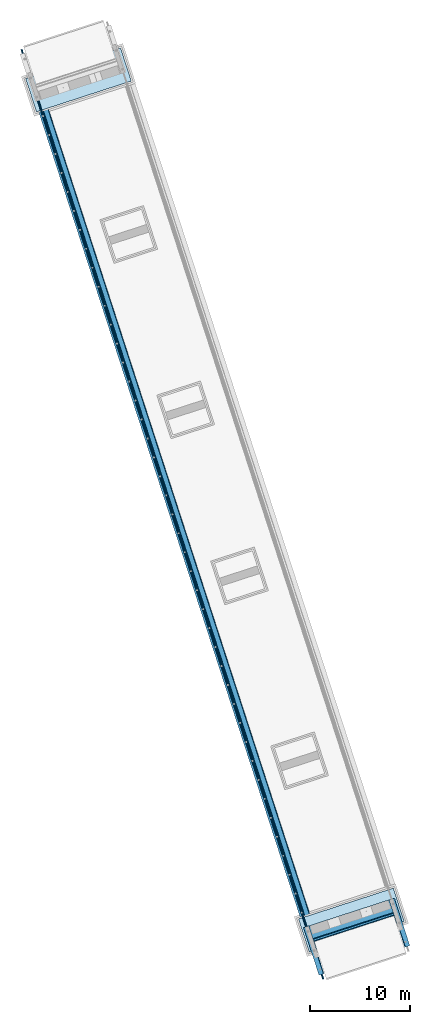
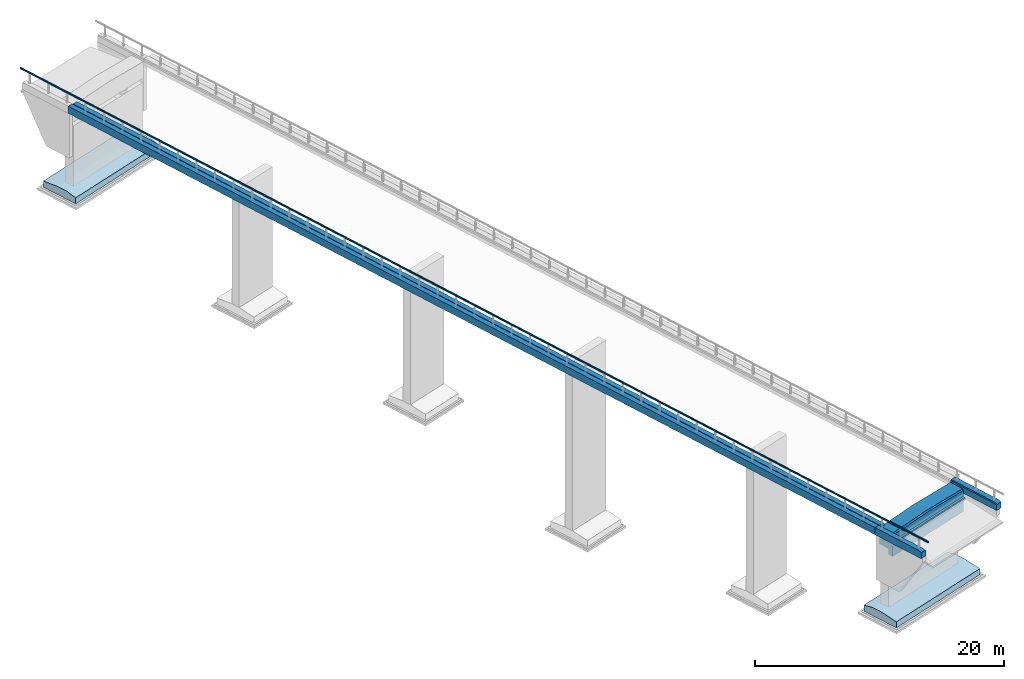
# Not in any storey, part 6 of 10: 5 beams, 2 footings, 1 member, 1 element without a shape of its own.
"""IFC4X3_ADD2 model written with IfcOpenShell, lengths in metres."""

from ifc_helpers import new_model, entity, si_unit, converted_unit, derived_unit, direction, frame, origin, origin_2d, place, context, subcontext, project, library, spatial, polygons, element, aggregate, save


model = new_model("IFC4X3_ADD2")

# Units and contexts
model_context = context("Model", 3, precision=1e-05, world=origin(), true_north=direction((-0.011993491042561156, 0.9999280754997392)))
plan_context = context("Plan", 2, precision=1e-05, world=origin_2d())
body_context = subcontext(model_context, "Body", "Model", "MODEL_VIEW")
ifc_project = project(units=[si_unit("LENGTHUNIT", "METRE"), si_unit("AREAUNIT", "SQUARE_METRE"), si_unit("VOLUMEUNIT", "CUBIC_METRE"), si_unit("MASSUNIT", "GRAM", prefix="KILO"), converted_unit("TIMEUNIT", "year", entity("IfcTimeMeasure", 31557600.0), si_unit("TIMEUNIT", "SECOND"), dimensions=[0, 0, 1, 0, 0, 0, 0]), si_unit("PLANEANGLEUNIT", "RADIAN"), si_unit("THERMODYNAMICTEMPERATUREUNIT", "DEGREE_CELSIUS"), si_unit("FORCEUNIT", "NEWTON", prefix="KILO"), si_unit("PRESSUREUNIT", "PASCAL", prefix="MEGA"), si_unit("SOLIDANGLEUNIT", "STERADIAN"), derived_unit("MASSDENSITYUNIT", [(si_unit("MASSUNIT", "GRAM", prefix="KILO"), 1), (si_unit("VOLUMEUNIT", "CUBIC_METRE"), -1)]), derived_unit("MODULUSOFELASTICITYUNIT", [(si_unit("PRESSUREUNIT", "PASCAL", prefix="MEGA"), 1)]), derived_unit("THERMALEXPANSIONCOEFFICIENTUNIT", [(si_unit("THERMODYNAMICTEMPERATUREUNIT", "DEGREE_CELSIUS"), -1)])], contexts=[model_context, plan_context])
project_library = library(declared=ifc_project)

# Site, bridge, bridge parts
site_placement = place(None, origin())
site = spatial("IfcSite", under=ifc_project, at=site_placement, Name="Site BR-01", CompositionType="ELEMENT")
bridge_placement = place(site_placement, origin())
bridge = spatial("IfcBridge", under=site, at=bridge_placement, Name="BR-01", CompositionType="ELEMENT", PredefinedType="USERDEFINED")
bridge_part_1_placement = place(bridge_placement, origin())
bridge_part_1 = spatial("IfcBridgePart", under=bridge, at=bridge_part_1_placement, Name="Substructure", CompositionType="ELEMENT", PredefinedType="SUBSTRUCTURE", UsageType="VERTICAL")
bridge_part_2_placement = place(bridge_part_1_placement, frame((0.0, 0.0, 55.75)))
bridge_part_2 = spatial("IfcBridgePart", under=bridge_part_1, at=bridge_part_2_placement, Name="A1", CompositionType="ELEMENT", PredefinedType="ABUTMENT", UsageType="VERTICAL")

# Footing
footing_1_placement = place(bridge_part_2_placement, frame((14.585738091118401, 113.83408002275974, 0.25), z_axis=(0.0, 0.0, 1.0), x_axis=(0.3088039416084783, -0.951125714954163, 0.0)))
element("IfcFooting", 1, at=footing_1_placement, inside=bridge_part_2, Name="Abutment strip footing A1", PredefinedType="STRIP_FOOTING", context=body_context, shape_type="Tessellation", body=[
    polygons([(-1.75001, -5.0, 0.0), (-1.75001, -5.0, 0.6), (-1.74999, 5.0, 0.6), (-1.74999, 5.0, 0.0), (-0.15001, -5.0, 0.8), (-0.14999, 5.0, 0.8), (0.74999, -5.0, 0.8), (0.75001, 5.0, 0.8), (1.74999, -5.0, 0.6), (1.75001, 5.0, 0.6), (1.74999, -5.0, 0.0), (1.75001, 5.0, 0.0)], [[[1, 2, 3, 4]], [[2, 5, 6, 3]], [[5, 7, 8, 6]], [[7, 9, 10, 8]], [[9, 11, 12, 10]], [[4, 6, 12]], [[6, 4, 3]], [[6, 10, 12]], [[10, 6, 8]], [[5, 1, 11]], [[5, 2, 1]], [[5, 9, 7]], [[11, 9, 5]], [[11, 1, 4, 12]]], closed=True),
])

# Bridge part
bridge_part_3_placement = place(bridge_part_1_placement, frame((0.0, 0.0, 55.75)))
bridge_part_3 = spatial("IfcBridgePart", under=bridge_part_1, at=bridge_part_3_placement, Name="A2", CompositionType="ELEMENT", PredefinedType="ABUTMENT", UsageType="VERTICAL")

# Footing
footing_2_placement = place(bridge_part_3_placement, frame((41.94554019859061, 29.564268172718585, 0.25), z_axis=(0.0, 0.0, 1.0), x_axis=(0.3088039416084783, -0.951125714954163, 0.0)))
element("IfcFooting", 2, at=footing_2_placement, inside=bridge_part_3, Name="Abutment strip footing A2", PredefinedType="STRIP_FOOTING", context=body_context, shape_type="Tessellation", body=[
    polygons([(1.75001, 5.0, 0.6), (1.74999, -5.0, 0.6), (1.74999, -5.0, 0.0), (1.75001, 5.0, 0.0), (0.15001, 5.0, 0.8), (0.14999, -5.0, 0.8), (-0.74999, 5.0, 0.8), (-0.75001, -5.0, 0.8), (-1.74999, 5.0, 0.6), (-1.75001, -5.0, 0.6), (-1.74999, 5.0, 0.0), (-1.75001, -5.0, 0.0)], [[[1, 2, 3, 4]], [[5, 6, 2, 1]], [[7, 8, 6, 5]], [[9, 10, 8, 7]], [[11, 12, 10, 9]], [[9, 7, 11]], [[7, 5, 4, 11]], [[5, 1, 4]], [[6, 10, 12]], [[10, 6, 8]], [[3, 6, 12]], [[6, 3, 2]], [[4, 3, 12, 11]]], closed=True),
])

# Bridge parts
bridge_part_4_placement = place(bridge_placement, origin())
bridge_part_4 = spatial("IfcBridgePart", under=bridge, at=bridge_part_4_placement, Name="Superstructure", CompositionType="ELEMENT", PredefinedType="SUPERSTRUCTURE", UsageType="LONGITUDINAL")
bridge_part_5_placement = place(bridge_part_4_placement, frame((0.0, 0.0, 62.729)))
bridge_part_5 = spatial("IfcBridgePart", under=bridge_part_4, at=bridge_part_5_placement, Name="Deck", CompositionType="ELEMENT", PredefinedType="DECK", UsageType="LONGITUDINAL")

# Railing, member
railing_placement = place(bridge_part_5_placement, frame((9.178916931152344, 115.91495513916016, 3.319721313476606), z_axis=(0.0, 0.0, 1.0), x_axis=(0.3088039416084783, -0.951125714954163, 0.0)))
railing = element("IfcRailing", 3, at=railing_placement, inside=bridge_part_5, Name="Bridge railing right", PredefinedType="GUARDRAIL")
member_placement = place(bridge_part_5_placement, frame((24.001186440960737, 70.26147365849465, 2.754779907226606), z_axis=(0.0, 0.0, 1.0), x_axis=(0.3088039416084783, -0.951125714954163, 0.0)))
member = element("IfcMember", 4, at=member_placement, Name="Railing top rail right", ObjectType="TOPRAIL", PredefinedType="USERDEFINED", context=body_context, shape_type="Tessellation", body=[
    polygons([(-48.9997, 0.0259, 0.50496), (-48.99969, -0.02563, 0.50496), (-48.99903, 0.0259, 0.63512), (-48.99949, 0.06522, 0.54427), (-48.99961, 0.04963, 0.52055), (-48.99972, 0.00014, 0.50004), (-48.99923, 0.06522, 0.59581), (-48.99936, 0.07014, 0.57004), (-48.99911, 0.04963, 0.61954), (-48.99903, -0.02563, 0.63512), (-48.99901, 0.00014, 0.64004), (-48.99911, -0.04936, 0.61954), (-48.99949, -0.06495, 0.54427), (-48.99961, -0.04936, 0.52055), (-48.99936, -0.06986, 0.57004), (-48.99923, -0.06495, 0.59581), (48.99972, -0.00014, 0.14), (48.99903, 0.02563, 0.00492), (48.99969, 0.02563, 0.13509), (48.99911, 0.04936, 0.02051), (48.99923, 0.06495, 0.04424), (48.99949, 0.06495, 0.09577), (48.99962, 0.04936, 0.1195), (48.99901, -0.00014, 0.0), (48.99936, 0.06986, 0.07), (48.99903, -0.0259, 0.00492), (48.99961, -0.04963, 0.1195), (48.99911, -0.04963, 0.02051), (48.99923, -0.06522, 0.04424), (48.99949, -0.06522, 0.09577), (48.99936, -0.07014, 0.07), (48.99969, -0.0259, 0.13509)], [[[1, 2, 3]], [[3, 4, 1]], [[4, 5, 1]], [[2, 1, 6]], [[4, 7, 8]], [[3, 7, 4]], [[3, 9, 7]], [[10, 11, 3]], [[12, 2, 13]], [[2, 14, 13]], [[15, 16, 13]], [[3, 2, 10]], [[2, 12, 10]], [[13, 16, 12]], [[17, 18, 19]], [[20, 21, 22]], [[18, 20, 23]], [[18, 17, 24]], [[21, 25, 22]], [[22, 23, 20]], [[19, 18, 23]], [[24, 17, 26]], [[26, 27, 28]], [[27, 29, 28]], [[30, 31, 29]], [[32, 26, 17]], [[27, 26, 32]], [[30, 29, 27]], [[30, 16, 15, 31]], [[26, 2, 6, 24]], [[18, 1, 5, 20]], [[21, 4, 8, 25]], [[20, 5, 4, 21]], [[24, 6, 1, 18]], [[29, 13, 14, 28]], [[28, 14, 2, 26]], [[31, 15, 13, 29]], [[19, 3, 11, 17]], [[32, 10, 12, 27]], [[27, 12, 16, 30]], [[17, 11, 10, 32]], [[22, 7, 9, 23]], [[23, 9, 3, 19]], [[25, 8, 7, 22]]], closed=True),
])
aggregate(railing, [member])

# Beams
beam_1_placement = place(bridge_part_5_placement, frame((41.96870000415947, 29.492933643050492, -0.6481207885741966), z_axis=(0.0, 0.0, 1.0), x_axis=(0.3088039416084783, -0.951125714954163, 0.0)))
element("IfcBeam", 5, at=beam_1_placement, inside=bridge_part_5, Name="End diaphragm A2", PredefinedType="DIAPHRAGM", context=body_context, shape_type="Tessellation", body=[
    polygons([(-0.825, 0.0, 2.32847), (-0.165, -1.0625, 2.29322), (0.495, 0.0, 2.32173), (-0.495, -1.0625, 2.29491), (-0.49501, -2.125, 2.26303), (-0.82501, -4.25, 2.20097), (-0.49501, -3.1875, 2.23116), (-0.16501, -3.1875, 2.22948), (0.165, -1.0625, 2.29154), (0.16499, -2.125, 2.25967), (0.49499, -4.25, 2.19423), (0.16499, -3.1875, 2.22779), (-0.16501, -2.125, 2.26134), (0.57499, -4.25, 2.04382), (0.575, 0.0, 2.17133), (0.57499, -4.25, 1.49382), (0.575, -2e-05, 1.4938), (-0.825, -1e-05, 0.60048), (-0.82501, -4.25, 0.60097), (-0.82499, 4.25, 2.2), (-0.16499, 3.1875, 2.22908), (0.49501, 4.25, 2.19415), (-0.49499, 3.1875, 2.2306), (-0.49499, 2.125, 2.26266), (-0.495, 1.0625, 2.29472), (-0.165, 1.0625, 2.29309), (0.16501, 3.1875, 2.22756), (0.16501, 2.125, 2.25951), (0.165, 1.0625, 2.29147), (-0.16499, 2.125, 2.26109), (0.53501, 3.1875, 2.15086), (0.57501, 4.25, 2.04379), (0.51501, 3.1875, 2.18845), (0.51501, 2.125, 2.22034), (0.515, 1.0625, 2.25224), (0.535, 1.0625, 2.21464), (0.55501, 3.1875, 2.11327), (0.55501, 2.125, 2.14515), (0.555, 1.0625, 2.17704), (0.53501, 2.125, 2.18275), (0.57501, 4.25, 1.49379), (0.66501, 2.125, 1.4848), (0.75501, 4.25, 1.47579), (0.62, -2e-05, 1.48931), (0.62001, 2.125, 1.4893), (0.61999, -2.125, 1.48932), (0.66499, -2.125, 1.48481), (0.71001, 2.125, 1.4803), (0.71, -2e-05, 1.4803), (0.75499, -4.25, 1.47582), (0.70999, -2.125, 1.48032), (0.665, -2e-05, 1.48481), (0.79001, 2.125, 1.4508), (0.82501, 4.25, 1.42579), (0.77251, 2.125, 1.4633), (0.7725, -2e-05, 1.46331), (0.77249, -2.125, 1.46331), (0.80751, 2.125, 1.4383), (0.8075, -2e-05, 1.4383), (0.82499, -4.25, 1.42582), (0.80749, -2.125, 1.43832), (0.78999, -2.125, 1.45081), (0.79, -2e-05, 1.45081), (0.82501, 2.125, 1.3348), (0.82501, 4.25, 1.24379), (0.82501, 2.125, 1.3803), (0.825, -2e-05, 1.38031), (0.82499, -2.125, 1.38031), (0.82499, -2.125, 1.33482), (0.82501, 2.125, 1.2893), (0.825, -2e-05, 1.28931), (0.82499, -4.25, 1.24382), (0.82499, -2.125, 1.28931), (0.825, -2e-05, 1.33481), (0.70001, 2.125, 1.1188), (0.57501, 4.25, 0.99379), (0.76251, 2.125, 1.1813), (0.7625, -2e-05, 1.1813), (0.76249, -2.125, 1.18132), (0.63751, 2.125, 1.0563), (0.6375, -2e-05, 1.0563), (0.57499, -4.25, 0.99382), (0.63749, -2.125, 1.05632), (0.69999, -2.125, 1.11882), (0.7, -2e-05, 1.1188), (0.57501, 2.125, 0.49702), (0.57501, 4.25, 0.0), (0.57501, 2.125, 0.74541), (0.575, -2e-05, 0.74548), (0.57499, -2.125, 0.74554), (0.57499, -2.125, 0.49727), (0.57501, 2.125, 0.24863), (0.575, -2e-05, 0.24881), (0.57499, -4.25, 0.00097), (0.57499, -2.125, 0.249), (0.575, -2e-05, 0.49715), (0.37501, 2.125, 0.00024), (0.17501, 4.25, 0.0), (0.47501, 2.125, 0.00024), (0.475, -2e-05, 0.00048), (0.47499, -2.125, 0.00072), (0.37499, -2.125, 0.00072), (0.27501, 2.125, 0.00024), (0.275, -2e-05, 0.00048), (0.17499, -4.25, 0.00097), (0.27499, -2.125, 0.00072), (0.375, -2e-05, 0.00048), (0.17501, 2.125, 0.30024), (0.17501, 4.25, 0.6), (0.17501, 2.125, 0.15024), (0.175, -1e-05, 0.15048), (0.17499, -2.125, 0.15073), (0.17501, 2.125, 0.45024), (0.175, -1e-05, 0.45049), (0.17499, -4.25, 0.60097), (0.17499, -2.125, 0.45073), (0.17499, -2.125, 0.30072), (0.175, -1e-05, 0.30048), (-0.32499, 2.125, 0.60024), (-0.82499, 4.25, 0.6), (-0.075, -1e-05, 0.60048), (-0.07499, 2.125, 0.60024), (-0.07501, -2.125, 0.60072), (-0.32501, -2.125, 0.60072), (-0.57499, 2.125, 0.60024), (-0.575, -1e-05, 0.60048), (-0.57501, -2.125, 0.60072), (-0.325, -1e-05, 0.60048)], [[[1, 2, 3]], [[4, 1, 5]], [[4, 2, 1]], [[6, 5, 1]], [[7, 6, 8]], [[6, 7, 5]], [[9, 3, 2]], [[3, 10, 11]], [[10, 3, 9]], [[12, 11, 10]], [[11, 8, 6]], [[8, 11, 12]], [[5, 13, 2, 4]], [[7, 8, 13, 5]], [[13, 10, 9, 2]], [[8, 12, 10, 13]], [[3, 11, 14, 15]], [[15, 14, 16, 17]], [[18, 19, 6, 1]], [[20, 21, 22]], [[23, 20, 24]], [[23, 21, 20]], [[1, 24, 20]], [[25, 1, 26]], [[1, 25, 24]], [[27, 22, 21]], [[22, 28, 3]], [[28, 22, 27]], [[29, 3, 28]], [[3, 26, 1]], [[26, 3, 29]], [[24, 30, 21, 23]], [[25, 26, 30, 24]], [[30, 28, 27, 21]], [[26, 29, 28, 30]], [[22, 31, 32]], [[33, 22, 34]], [[33, 31, 22]], [[3, 34, 22]], [[35, 3, 36]], [[3, 35, 34]], [[37, 32, 31]], [[32, 38, 15]], [[38, 32, 37]], [[39, 15, 38]], [[15, 36, 3]], [[36, 15, 39]], [[34, 40, 31, 33]], [[35, 36, 40, 34]], [[40, 38, 37, 31]], [[36, 39, 38, 40]], [[32, 15, 17, 41]], [[41, 42, 43]], [[44, 45, 41, 17]], [[45, 42, 41]], [[46, 17, 16]], [[46, 16, 47]], [[46, 44, 17]], [[48, 43, 42]], [[43, 49, 50]], [[49, 43, 48]], [[51, 50, 49]], [[50, 47, 16]], [[47, 50, 51]], [[44, 52, 42, 45]], [[46, 47, 52, 44]], [[52, 49, 48, 42]], [[47, 51, 49, 52]], [[43, 53, 54]], [[55, 53, 43]], [[56, 55, 43, 50]], [[50, 57, 56]], [[58, 54, 53]], [[54, 59, 60]], [[59, 54, 58]], [[61, 60, 59]], [[62, 57, 50, 60]], [[62, 60, 61]], [[56, 63, 53, 55]], [[57, 62, 63, 56]], [[63, 59, 58, 53]], [[62, 61, 59, 63]], [[54, 64, 65]], [[66, 64, 54]], [[67, 66, 54, 60]], [[68, 60, 69]], [[60, 68, 67]], [[70, 65, 64]], [[65, 71, 72]], [[71, 65, 70]], [[73, 72, 71]], [[72, 69, 60]], [[69, 72, 73]], [[67, 74, 64, 66]], [[68, 69, 74, 67]], [[74, 71, 70, 64]], [[69, 73, 71, 74]], [[65, 75, 76]], [[77, 75, 65]], [[78, 77, 65, 72]], [[72, 79, 78]], [[80, 76, 75]], [[76, 81, 82]], [[81, 76, 80]], [[83, 82, 81]], [[84, 79, 72, 82]], [[84, 82, 83]], [[78, 85, 75, 77]], [[79, 84, 85, 78]], [[85, 81, 80, 75]], [[84, 83, 81, 85]], [[76, 86, 87]], [[88, 86, 76]], [[89, 88, 76, 82]], [[90, 82, 91]], [[82, 90, 89]], [[92, 87, 86]], [[87, 93, 94]], [[93, 87, 92]], [[95, 94, 93]], [[94, 91, 82]], [[91, 94, 95]], [[89, 96, 86, 88]], [[90, 91, 96, 89]], [[96, 93, 92, 86]], [[91, 95, 93, 96]], [[87, 97, 98]], [[99, 97, 87]], [[100, 99, 87, 94]], [[101, 94, 102]], [[94, 101, 100]], [[103, 98, 97]], [[98, 104, 105]], [[104, 98, 103]], [[106, 105, 104]], [[105, 102, 94]], [[102, 105, 106]], [[100, 107, 97, 99]], [[101, 102, 107, 100]], [[107, 104, 103, 97]], [[102, 106, 104, 107]], [[98, 108, 109]], [[110, 108, 98]], [[111, 110, 98, 105]], [[105, 112, 111]], [[113, 109, 108]], [[109, 114, 115]], [[114, 109, 113]], [[116, 115, 114]], [[117, 112, 105, 115]], [[117, 115, 116]], [[111, 118, 108, 110]], [[112, 117, 118, 111]], [[118, 114, 113, 108]], [[117, 116, 114, 118]], [[109, 119, 120]], [[115, 121, 109]], [[122, 109, 121]], [[109, 122, 119]], [[115, 123, 121]], [[124, 115, 19]], [[115, 124, 123]], [[125, 120, 119]], [[125, 126, 18, 120]], [[127, 18, 126]], [[19, 127, 124]], [[19, 18, 127]], [[121, 128, 119, 122]], [[123, 124, 128, 121]], [[128, 126, 125, 119]], [[124, 127, 126, 128]], [[109, 76, 87]], [[20, 109, 120]], [[20, 22, 41]], [[20, 41, 109]], [[87, 98, 109]], [[76, 109, 41]], [[32, 41, 22]], [[41, 43, 65]], [[41, 65, 76]], [[54, 65, 43]], [[16, 11, 6]], [[115, 105, 94]], [[115, 94, 82]], [[115, 6, 19]], [[6, 115, 16]], [[16, 115, 82]], [[72, 16, 82]], [[50, 72, 60]], [[50, 16, 72]], [[16, 14, 11]], [[120, 18, 1, 20]]], closed=True),
])
beam_2_placement = place(bridge_part_5_placement, frame((24.46105203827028, 70.38857778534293, 1.1228447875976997), z_axis=(0.0, 0.0, 1.0), x_axis=(0.3088039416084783, -0.951125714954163, 0.0)))
element("IfcBeam", 6, at=beam_2_placement, inside=bridge_part_5, Name="Edge beam right inner", PredefinedType="EDGEBEAM", context=body_context, shape_type="Tessellation", body=[
    polygons([(0.0, 0.22, 0.55071), (-43.55, 0.22012, 0.87292), (43.55, 0.21988, 0.4285), (-21.44402, 0.22006, 0.66013), (-21.44402, 0.22006, 0.56013), (-43.55, 0.22012, 0.47293), (-21.44402, 0.22006, 0.46014), (22.10598, 0.21994, 0.43792), (22.10598, 0.21994, 0.33792), (43.55, 0.21988, 0.0285), (22.10598, 0.21994, 0.23792), (0.0, 0.22, 0.35072), (0.0, 0.22, 0.45071), (0.0, 0.0975, 0.24359), (-21.44402, 0.09756, 0.353), (-21.44402, -0.02494, 0.34589), (-43.55, -0.26988, 0.44443), (-21.44402, -0.14744, 0.33876), (22.10598, 0.09744, 0.13079), (22.10598, -0.02506, 0.12367), (43.55, -0.27012, 0.0), (22.10598, -0.14756, 0.11654), (0.0, -0.1475, 0.22934), (0.0, -0.025, 0.23647), (0.0, -0.27, 0.39722), (-21.44402, -0.26994, 0.50663), (-21.44402, -0.26994, 0.68163), (-43.55, -0.26988, 1.14443), (-21.44402, -0.26994, 0.85664), (22.10598, -0.27006, 0.28442), (22.10598, -0.27006, 0.45942), (43.55, -0.27012, 0.7), (22.10598, -0.27006, 0.63442), (0.0, -0.27, 0.74722), (0.0, -0.27, 0.57221), (0.0, -0.1525, 0.91721), (-21.44402, -0.15244, 1.02663), (-21.44402, -0.03494, 1.02163), (-43.55, 0.20012, 1.12443), (-21.44402, 0.08256, 1.01663), (22.10598, -0.15256, 0.80442), (22.10598, -0.03506, 0.79942), (43.55, 0.19988, 0.68), (22.10598, 0.08244, 0.79442), (0.0, 0.0825, 0.90721), (0.0, -0.035, 0.91222), (0.0, 0.2175, 0.88471), (-21.44402, 0.21756, 0.99413), (-21.44402, 0.23506, 0.97663), (-43.55, 0.27012, 1.05443), (-21.44402, 0.25256, 0.95913), (22.10598, 0.21744, 0.77192), (22.10598, 0.23494, 0.75442), (43.55, 0.26988, 0.61), (22.10598, 0.25244, 0.73692), (0.0, 0.2525, 0.84972), (0.0, 0.235, 0.86722), (0.0, 0.27, 0.78722), (-21.44402, 0.27006, 0.89663), (-21.44402, 0.27006, 0.85163), (-43.55, 0.27012, 0.87443), (-21.44402, 0.27006, 0.80663), (22.10598, 0.26994, 0.67442), (22.10598, 0.26994, 0.62942), (43.55, 0.26988, 0.43), (22.10598, 0.26994, 0.58442), (0.0, 0.27, 0.69721), (0.0, 0.27, 0.74222), (0.0, 0.2575, 0.65184), (-21.44402, 0.25756, 0.76126), (-21.44402, 0.24506, 0.76088), (-21.44402, 0.23256, 0.76051), (22.10598, 0.25744, 0.53905), (22.10598, 0.24494, 0.53867), (22.10598, 0.23244, 0.53829), (0.0, 0.2325, 0.65109), (0.0, 0.245, 0.65147)], [[[1, 2, 3]], [[2, 4, 5]], [[1, 4, 2]], [[5, 6, 2]], [[7, 6, 5]], [[3, 8, 1]], [[9, 3, 10]], [[3, 9, 8]], [[10, 11, 9]], [[6, 7, 12, 10]], [[10, 12, 11]], [[1, 13, 5, 4]], [[13, 12, 7, 5]], [[8, 9, 13, 1]], [[9, 11, 12, 13]], [[14, 6, 10]], [[6, 15, 16]], [[14, 15, 6]], [[16, 17, 6]], [[18, 17, 16]], [[10, 19, 14]], [[20, 10, 21]], [[10, 20, 19]], [[21, 22, 20]], [[17, 18, 23, 21]], [[21, 23, 22]], [[14, 24, 16, 15]], [[24, 23, 18, 16]], [[19, 20, 24, 14]], [[20, 22, 23, 24]], [[25, 17, 21]], [[25, 26, 17]], [[17, 26, 27, 28]], [[29, 28, 27]], [[21, 30, 25]], [[31, 21, 32]], [[21, 31, 30]], [[32, 33, 31]], [[28, 29, 34, 32]], [[32, 34, 33]], [[25, 35, 27, 26]], [[35, 34, 29, 27]], [[30, 31, 35, 25]], [[31, 33, 34, 35]], [[36, 28, 32]], [[28, 37, 38]], [[36, 37, 28]], [[38, 39, 28]], [[40, 39, 38]], [[32, 41, 36]], [[42, 32, 43]], [[32, 42, 41]], [[43, 44, 42]], [[39, 40, 45, 43]], [[43, 45, 44]], [[36, 46, 38, 37]], [[46, 45, 40, 38]], [[41, 42, 46, 36]], [[42, 44, 45, 46]], [[47, 39, 43]], [[39, 48, 49]], [[47, 48, 39]], [[49, 50, 39]], [[51, 50, 49]], [[43, 52, 47]], [[53, 43, 54]], [[43, 53, 52]], [[54, 55, 53]], [[50, 51, 56, 54]], [[54, 56, 55]], [[47, 57, 49, 48]], [[57, 56, 51, 49]], [[52, 53, 57, 47]], [[53, 55, 56, 57]], [[58, 50, 54]], [[50, 59, 60]], [[58, 59, 50]], [[60, 61, 50]], [[62, 61, 60]], [[54, 63, 58]], [[64, 54, 65]], [[54, 64, 63]], [[65, 66, 64]], [[61, 62, 67, 65]], [[65, 67, 66]], [[58, 68, 60, 59]], [[68, 67, 62, 60]], [[63, 64, 68, 58]], [[64, 66, 67, 68]], [[3, 54, 43]], [[10, 3, 21]], [[65, 54, 3]], [[32, 3, 43]], [[32, 21, 3]], [[50, 2, 39]], [[50, 61, 2]], [[2, 6, 17]], [[28, 2, 17]], [[2, 28, 39]], [[69, 61, 65]], [[61, 70, 71]], [[69, 70, 61]], [[71, 2, 61]], [[72, 2, 71]], [[65, 73, 69]], [[74, 65, 3]], [[65, 74, 73]], [[3, 75, 74]], [[2, 72, 76, 3]], [[3, 76, 75]], [[69, 77, 71, 70]], [[77, 76, 72, 71]], [[73, 74, 77, 69]], [[74, 75, 76, 77]]], closed=True),
])
beam_3_placement = place(bridge_part_3_placement, frame((46.785029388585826, 29.295603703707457, 8.078701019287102), z_axis=(0.0, 0.0, 1.0), x_axis=(0.3088039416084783, -0.951125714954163, 0.0)))
element("IfcBeam", 7, at=beam_3_placement, inside=bridge_part_3, Name="Wing wall edge beam A2 left", PredefinedType="EDGEBEAM", context=body_context, shape_type="Tessellation", body=[
    polygons([(-2.49997, 0.13001, 0.03075), (-0.15, 0.165, 0.01818), (2.19998, 0.12999, 0.0099), (-1.32749, 0.165, 0.02341), (-1.32749, 0.2, 0.02126), (-2.49997, 0.27001, 0.02218), (-1.32749, 0.235, 0.01912), (0.99999, 0.165, 0.01308), (0.99999, 0.2, 0.01094), (2.19998, 0.26999, 0.00133), (0.99999, 0.235, 0.0088), (-0.15, 0.235, 0.0139), (-0.15, 0.2, 0.01604), (-0.15, 0.27, 0.18676), (-1.32749, 0.27, 0.19197), (-1.32749, 0.27, 0.36698), (-2.49997, 0.27001, 0.72218), (-1.32749, 0.27, 0.54198), (0.99999, 0.27, 0.18165), (0.99999, 0.27, 0.35666), (2.19998, 0.26999, 0.70133), (0.99999, 0.27, 0.53165), (-0.15, 0.27, 0.53675), (-0.15, 0.27, 0.36175), (-0.15, 0.1525, 0.70675), (-1.32749, 0.1525, 0.71198), (-1.32749, 0.035, 0.70697), (-2.49998, -0.19999, 0.70218), (-1.32749, -0.0825, 0.70198), (-0.15, -0.0825, 0.69675), (0.99999, 0.1525, 0.70166), (0.99999, 0.035, 0.69665), (2.19998, -0.20001, 0.68133), (0.99999, -0.0825, 0.69165), (-0.15, 0.035, 0.70176), (-0.15, -0.2175, 0.67425), (-1.32749, -0.2175, 0.67948), (-1.32749, -0.235, 0.66198), (-2.49998, -0.26999, 0.63218), (-1.32749, -0.2525, 0.64447), (-0.15, -0.2525, 0.63926), (0.99999, -0.2175, 0.66916), (0.99999, -0.235, 0.65165), (2.19998, -0.27001, 0.61133), (0.99999, -0.2525, 0.63415), (-0.15, -0.235, 0.65676), (-0.15, -0.27, 0.47139), (-2.49998, -0.26999, 0.45218), (-1.32749, -0.27, 0.32626), (-1.32749, -0.27, 0.47662), (-1.32749, -0.27, 0.17591), (-2.49998, -0.26999, 0.03075), (-0.15, -0.27, 0.17068), (0.99999, -0.27, 0.4663), (0.99999, -0.27, 0.31594), (2.19998, -0.27001, 0.43133), (0.99999, -0.27, 0.16558), (2.19998, -0.27001, 0.0099), (-0.15, -0.27, 0.32104), (2.49998, 0.26999, 0.0), (2.49998, 0.12999, 0.00857), (2.49998, 0.26999, 0.62), (2.49998, -0.20001, 0.6), (2.49997, -0.27001, 0.53), (2.34998, -0.27001, 0.45372), (2.27498, -0.27001, 0.31028), (2.27498, -0.27001, 0.45735), (2.27498, -0.27001, 0.15993), (2.34998, -0.27001, 0.15959), (2.42498, -0.27001, 0.45009), (2.42498, -0.27001, 0.30962), (2.49997, -0.27001, 0.43), (2.42498, -0.27001, 0.15926), (2.49997, -0.27001, 0.00857), (2.34998, -0.27001, 0.30995), (-0.15, -0.17, 0.02032), (-1.32749, -0.17, 0.02555), (-1.32749, -0.07, 0.02555), (-1.32749, 0.03, 0.02555), (-0.15, 0.03, 0.02032), (0.99999, -0.17, 0.01522), (0.99999, -0.07, 0.01522), (0.99999, 0.03, 0.01522), (-0.15, -0.07, 0.02032)], [[[1, 2, 3]], [[4, 1, 5]], [[4, 2, 1]], [[6, 5, 1]], [[6, 7, 5]], [[8, 3, 2]], [[3, 9, 10]], [[9, 3, 8]], [[11, 10, 9]], [[12, 7, 6, 10]], [[12, 10, 11]], [[5, 13, 2, 4]], [[7, 12, 13, 5]], [[13, 9, 8, 2]], [[12, 11, 9, 13]], [[6, 14, 10]], [[15, 6, 16]], [[15, 14, 6]], [[17, 16, 6]], [[17, 18, 16]], [[19, 10, 14]], [[10, 20, 21]], [[20, 10, 19]], [[22, 21, 20]], [[23, 18, 17, 21]], [[23, 21, 22]], [[16, 24, 14, 15]], [[18, 23, 24, 16]], [[24, 20, 19, 14]], [[23, 22, 20, 24]], [[17, 25, 21]], [[26, 17, 27]], [[26, 25, 17]], [[28, 27, 17]], [[29, 28, 30]], [[28, 29, 27]], [[31, 21, 25]], [[21, 32, 33]], [[32, 21, 31]], [[34, 33, 32]], [[33, 30, 28]], [[30, 33, 34]], [[27, 35, 25, 26]], [[29, 30, 35, 27]], [[35, 32, 31, 25]], [[30, 34, 32, 35]], [[28, 36, 33]], [[37, 36, 28]], [[38, 37, 28, 39]], [[40, 39, 41]], [[39, 40, 38]], [[42, 33, 36]], [[33, 43, 44]], [[43, 33, 42]], [[45, 44, 43]], [[44, 41, 39]], [[41, 44, 45]], [[38, 46, 36, 37]], [[40, 41, 46, 38]], [[46, 43, 42, 36]], [[41, 45, 43, 46]], [[39, 47, 44]], [[48, 49, 50]], [[39, 48, 50]], [[50, 47, 39]], [[51, 48, 52]], [[51, 52, 53]], [[51, 49, 48]], [[54, 44, 47]], [[54, 55, 56]], [[56, 44, 54]], [[55, 57, 58, 56]], [[58, 53, 52]], [[53, 58, 57]], [[49, 59, 47, 50]], [[51, 53, 59, 49]], [[59, 55, 54, 47]], [[53, 57, 55, 59]], [[3, 10, 60, 61]], [[10, 21, 62, 60]], [[21, 33, 63, 62]], [[33, 44, 64, 63]], [[44, 65, 64]], [[56, 66, 67]], [[44, 56, 67]], [[67, 65, 44]], [[68, 56, 58]], [[68, 58, 69]], [[68, 66, 56]], [[64, 65, 70]], [[70, 71, 72]], [[72, 64, 70]], [[71, 73, 74, 72]], [[74, 69, 58]], [[69, 74, 73]], [[66, 75, 65, 67]], [[68, 69, 75, 66]], [[75, 71, 70, 65]], [[69, 73, 71, 75]], [[52, 76, 58]], [[77, 52, 78]], [[77, 76, 52]], [[1, 78, 52]], [[79, 1, 80]], [[1, 79, 78]], [[81, 58, 76]], [[58, 82, 3]], [[82, 58, 81]], [[83, 3, 82]], [[3, 80, 1]], [[80, 3, 83]], [[78, 84, 76, 77]], [[79, 80, 84, 78]], [[84, 82, 81, 76]], [[80, 83, 82, 84]], [[61, 63, 72]], [[62, 63, 61]], [[61, 60, 62]], [[64, 72, 63]], [[72, 74, 61]], [[28, 1, 48]], [[6, 1, 17]], [[28, 17, 1]], [[52, 48, 1]], [[48, 39, 28]], [[58, 3, 61, 74]]], closed=True),
])
beam_4_placement = place(bridge_part_3_placement, frame((38.18683785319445, 26.504044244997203, 8.076332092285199), z_axis=(0.0, 0.0, 1.0), x_axis=(0.3088039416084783, -0.951125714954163, 0.0)))
element("IfcBeam", 8, at=beam_4_placement, inside=bridge_part_3, Name="Wing wall edge beam A2 right", PredefinedType="EDGEBEAM", context=body_context, shape_type="Tessellation", body=[
    polygons([(-0.15, -0.165, 0.01995), (-2.49997, -0.12999, 0.03408), (2.19997, -0.13001, 0.01011), (-1.32748, -0.165, 0.02596), (-1.32748, -0.2, 0.02382), (-2.49997, -0.26999, 0.02551), (-1.32748, -0.235, 0.02168), (0.99999, -0.165, 0.01408), (0.99999, -0.2, 0.01194), (2.19997, -0.27001, 0.00153), (0.99999, -0.235, 0.0098), (-0.15, -0.235, 0.01567), (-0.15, -0.2, 0.01781), (-0.15, -0.27, 0.18852), (-1.32748, -0.27, 0.19453), (-1.32748, -0.27, 0.36953), (-2.49997, -0.26999, 0.72552), (-1.32748, -0.27, 0.54453), (0.99999, -0.27, 0.18266), (0.99999, -0.27, 0.35766), (2.19997, -0.27001, 0.70153), (0.99999, -0.27, 0.53265), (-0.15, -0.27, 0.53852), (-0.15, -0.27, 0.36353), (-0.15, -0.1525, 0.70853), (-1.32748, -0.1525, 0.71453), (-1.32748, -0.035, 0.70953), (-2.49997, 0.20001, 0.70551), (-1.32748, 0.0825, 0.70453), (0.99999, -0.1525, 0.70265), (0.99999, -0.035, 0.69765), (2.19997, 0.19999, 0.68153), (0.99999, 0.0825, 0.69266), (-0.15, 0.0825, 0.69852), (-0.15, -0.035, 0.70352), (-0.15, 0.2175, 0.67603), (-1.32748, 0.2175, 0.68203), (-1.32748, 0.235, 0.66453), (-2.49997, 0.27001, 0.63551), (-1.32748, 0.2525, 0.64703), (0.99999, 0.2175, 0.67016), (0.99999, 0.235, 0.65266), (2.19997, 0.26999, 0.61153), (0.99999, 0.2525, 0.63515), (-0.15, 0.2525, 0.64102), (-0.15, 0.235, 0.65852), (-0.15, 0.27, 0.47317), (-1.32748, 0.27, 0.32882), (-2.49997, 0.27001, 0.45551), (-1.32748, 0.27, 0.47917), (-1.32748, 0.27, 0.17846), (-2.49997, 0.27001, 0.03408), (0.99999, 0.27, 0.4673), (0.99999, 0.27, 0.31694), (2.19997, 0.26999, 0.43153), (2.19997, 0.26999, 0.01011), (0.99999, 0.27, 0.16658), (-0.15, 0.27, 0.17245), (-0.15, 0.27, 0.32281), (2.49997, -0.27001, 0.0), (2.49997, -0.13001, 0.00857), (2.49997, -0.27001, 0.62), (2.49997, 0.19999, 0.6), (2.49997, 0.26999, 0.53), (2.34997, 0.26999, 0.45382), (2.27497, 0.26999, 0.31043), (2.27497, 0.26999, 0.4575), (2.27497, 0.26999, 0.16008), (2.34997, 0.26999, 0.15969), (2.42497, 0.26999, 0.45015), (2.42497, 0.26999, 0.30967), (2.49997, 0.26999, 0.43), (2.49997, 0.26999, 0.00857), (2.42497, 0.26999, 0.15931), (2.34997, 0.26999, 0.31005), (-0.15, 0.17, 0.02209), (-1.32748, 0.17, 0.0281), (-1.32748, 0.07, 0.0281), (-1.32748, -0.03, 0.0281), (0.99999, 0.17, 0.01623), (0.99999, 0.07, 0.01623), (0.99999, -0.03, 0.01623), (-0.15, -0.03, 0.02209), (-0.15, 0.07, 0.02209)], [[[1, 2, 3]], [[2, 4, 5]], [[1, 4, 2]], [[5, 6, 2]], [[7, 6, 5]], [[3, 8, 1]], [[9, 3, 10]], [[3, 9, 8]], [[10, 11, 9]], [[6, 7, 12, 10]], [[10, 12, 11]], [[1, 13, 5, 4]], [[13, 12, 7, 5]], [[8, 9, 13, 1]], [[9, 11, 12, 13]], [[14, 6, 10]], [[6, 15, 16]], [[14, 15, 6]], [[16, 17, 6]], [[18, 17, 16]], [[10, 19, 14]], [[20, 10, 21]], [[10, 20, 19]], [[21, 22, 20]], [[17, 18, 23, 21]], [[21, 23, 22]], [[14, 24, 16, 15]], [[24, 23, 18, 16]], [[19, 20, 24, 14]], [[20, 22, 23, 24]], [[25, 17, 21]], [[17, 26, 27]], [[25, 26, 17]], [[27, 28, 17]], [[29, 28, 27]], [[21, 30, 25]], [[31, 21, 32]], [[21, 31, 30]], [[32, 33, 31]], [[28, 29, 34, 32]], [[32, 34, 33]], [[25, 35, 27, 26]], [[35, 34, 29, 27]], [[30, 31, 35, 25]], [[31, 33, 34, 35]], [[36, 28, 32]], [[28, 37, 38]], [[36, 37, 28]], [[38, 39, 28]], [[40, 39, 38]], [[32, 41, 36]], [[42, 32, 43]], [[32, 42, 41]], [[43, 44, 42]], [[39, 40, 45, 43]], [[43, 45, 44]], [[36, 46, 38, 37]], [[46, 45, 40, 38]], [[41, 42, 46, 36]], [[42, 44, 45, 46]], [[47, 39, 43]], [[48, 49, 50]], [[49, 39, 50]], [[47, 50, 39]], [[49, 51, 52]], [[48, 51, 49]], [[43, 53, 47]], [[54, 53, 55]], [[43, 55, 53]], [[56, 57, 54, 55]], [[52, 51, 58, 56]], [[56, 58, 57]], [[47, 59, 48, 50]], [[59, 58, 51, 48]], [[53, 54, 59, 47]], [[54, 57, 58, 59]], [[60, 10, 3, 61]], [[62, 21, 10, 60]], [[63, 32, 21, 62]], [[64, 43, 32, 63]], [[65, 43, 64]], [[66, 55, 67]], [[55, 43, 67]], [[65, 67, 43]], [[55, 68, 56]], [[56, 68, 69]], [[66, 68, 55]], [[65, 64, 70]], [[71, 70, 72]], [[64, 72, 70]], [[73, 74, 71, 72]], [[69, 73, 56]], [[73, 69, 74]], [[65, 75, 66, 67]], [[75, 69, 68, 66]], [[70, 71, 75, 65]], [[71, 74, 69, 75]], [[76, 52, 56]], [[52, 77, 78]], [[76, 77, 52]], [[78, 2, 52]], [[79, 2, 78]], [[56, 80, 76]], [[81, 56, 3]], [[56, 81, 80]], [[3, 82, 81]], [[2, 79, 83, 3]], [[3, 83, 82]], [[76, 84, 78, 77]], [[84, 83, 79, 78]], [[80, 81, 84, 76]], [[81, 82, 83, 84]], [[61, 72, 63]], [[61, 73, 72]], [[64, 63, 72]], [[62, 61, 63]], [[61, 62, 60]], [[2, 49, 52]], [[28, 39, 49]], [[28, 49, 17]], [[2, 17, 49]], [[2, 6, 17]], [[61, 3, 56, 73]]], closed=True),
])
beam_5_placement = place(bridge_part_5_placement, frame((23.96654889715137, 70.30339317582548, 1.1228447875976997), z_axis=(0.0, 0.0, 1.0), x_axis=(0.3088039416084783, -0.951125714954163, 0.0)))
element("IfcBeam", 9, at=beam_5_placement, inside=bridge_part_5, Name="Edge beam right outer", PredefinedType="EDGEBEAM", context=body_context, shape_type="Tessellation", body=[
    polygons([(0.0, 0.22, 0.55071), (-43.55, 0.22012, 0.87292), (43.55, 0.21988, 0.4285), (-21.44402, 0.22006, 0.66013), (-21.44402, 0.22006, 0.56013), (-43.55, 0.22012, 0.47293), (-21.44402, 0.22006, 0.46014), (22.10598, 0.21994, 0.43792), (22.10598, 0.21994, 0.33792), (43.55, 0.21988, 0.0285), (22.10598, 0.21994, 0.23792), (0.0, 0.22, 0.35072), (0.0, 0.22, 0.45071), (0.0, 0.0975, 0.24359), (-21.44402, 0.09756, 0.353), (-21.44402, -0.02494, 0.34589), (-43.55, -0.26988, 0.44443), (-21.44402, -0.14744, 0.33876), (22.10598, 0.09744, 0.13079), (22.10598, -0.02506, 0.12367), (43.55, -0.27012, 0.0), (22.10598, -0.14756, 0.11654), (0.0, -0.1475, 0.22934), (0.0, -0.025, 0.23647), (0.0, -0.27, 0.39722), (-21.44402, -0.26994, 0.50663), (-21.44402, -0.26994, 0.68163), (-43.55, -0.26988, 1.14443), (-21.44402, -0.26994, 0.85664), (22.10598, -0.27006, 0.28442), (22.10598, -0.27006, 0.45942), (43.55, -0.27012, 0.7), (22.10598, -0.27006, 0.63442), (0.0, -0.27, 0.74722), (0.0, -0.27, 0.57221), (0.0, -0.1525, 0.91721), (-21.44402, -0.15244, 1.02663), (-21.44402, -0.03494, 1.02163), (-43.55, 0.20012, 1.12443), (-21.44402, 0.08256, 1.01663), (22.10598, -0.15256, 0.80442), (22.10598, -0.03506, 0.79942), (43.55, 0.19988, 0.68), (22.10598, 0.08244, 0.79442), (0.0, 0.0825, 0.90721), (0.0, -0.035, 0.91222), (0.0, 0.2175, 0.88471), (-21.44402, 0.21756, 0.99413), (-21.44402, 0.23506, 0.97663), (-43.55, 0.27012, 1.05443), (-21.44402, 0.25256, 0.95913), (22.10598, 0.21744, 0.77192), (22.10598, 0.23494, 0.75442), (43.55, 0.26988, 0.61), (22.10598, 0.25244, 0.73692), (0.0, 0.2525, 0.84972), (0.0, 0.235, 0.86722), (0.0, 0.27, 0.78722), (-21.44402, 0.27006, 0.89663), (-21.44402, 0.27006, 0.85163), (-43.55, 0.27012, 0.87443), (-21.44402, 0.27006, 0.80663), (22.10598, 0.26994, 0.67442), (22.10598, 0.26994, 0.62942), (43.55, 0.26988, 0.43), (22.10598, 0.26994, 0.58442), (0.0, 0.27, 0.69721), (0.0, 0.27, 0.74222), (0.0, 0.2575, 0.65184), (-21.44402, 0.25756, 0.76126), (-21.44402, 0.24506, 0.76088), (-21.44402, 0.23256, 0.76051), (22.10598, 0.25744, 0.53905), (22.10598, 0.24494, 0.53867), (22.10598, 0.23244, 0.53829), (0.0, 0.2325, 0.65109), (0.0, 0.245, 0.65147)], [[[1, 2, 3]], [[2, 4, 5]], [[1, 4, 2]], [[5, 6, 2]], [[7, 6, 5]], [[3, 8, 1]], [[9, 3, 10]], [[3, 9, 8]], [[10, 11, 9]], [[6, 7, 12, 10]], [[10, 12, 11]], [[1, 13, 5, 4]], [[13, 12, 7, 5]], [[8, 9, 13, 1]], [[9, 11, 12, 13]], [[14, 6, 10]], [[14, 15, 6]], [[6, 15, 16, 17]], [[18, 17, 16]], [[10, 19, 14]], [[20, 10, 21]], [[10, 20, 19]], [[21, 22, 20]], [[17, 18, 23, 21]], [[21, 23, 22]], [[14, 24, 16, 15]], [[24, 23, 18, 16]], [[19, 20, 24, 14]], [[20, 22, 23, 24]], [[25, 17, 21]], [[17, 26, 27]], [[25, 26, 17]], [[27, 28, 17]], [[29, 28, 27]], [[21, 30, 25]], [[31, 21, 32]], [[21, 31, 30]], [[32, 33, 31]], [[28, 29, 34, 32]], [[32, 34, 33]], [[25, 35, 27, 26]], [[35, 34, 29, 27]], [[30, 31, 35, 25]], [[31, 33, 34, 35]], [[36, 28, 32]], [[28, 37, 38]], [[36, 37, 28]], [[38, 39, 28]], [[40, 39, 38]], [[32, 41, 36]], [[42, 32, 43]], [[32, 42, 41]], [[43, 44, 42]], [[39, 40, 45, 43]], [[43, 45, 44]], [[36, 46, 38, 37]], [[46, 45, 40, 38]], [[41, 42, 46, 36]], [[42, 44, 45, 46]], [[47, 39, 43]], [[39, 48, 49]], [[47, 48, 39]], [[49, 50, 39]], [[51, 50, 49]], [[43, 52, 47]], [[53, 43, 54]], [[43, 53, 52]], [[54, 55, 53]], [[50, 51, 56, 54]], [[54, 56, 55]], [[47, 57, 49, 48]], [[57, 56, 51, 49]], [[52, 53, 57, 47]], [[53, 55, 56, 57]], [[58, 50, 54]], [[50, 59, 60]], [[58, 59, 50]], [[60, 61, 50]], [[62, 61, 60]], [[54, 63, 58]], [[64, 54, 65]], [[54, 64, 63]], [[65, 66, 64]], [[61, 62, 67, 65]], [[65, 67, 66]], [[58, 68, 60, 59]], [[68, 67, 62, 60]], [[63, 64, 68, 58]], [[64, 66, 67, 68]], [[3, 54, 43]], [[10, 3, 21]], [[65, 54, 3]], [[32, 3, 43]], [[32, 21, 3]], [[50, 2, 39]], [[50, 61, 2]], [[2, 6, 17]], [[28, 2, 17]], [[2, 28, 39]], [[69, 61, 65]], [[61, 70, 71]], [[69, 70, 61]], [[71, 2, 61]], [[72, 2, 71]], [[65, 73, 69]], [[74, 65, 3]], [[65, 74, 73]], [[3, 75, 74]], [[2, 72, 76, 3]], [[3, 76, 75]], [[69, 77, 71, 70]], [[77, 76, 72, 71]], [[73, 74, 77, 69]], [[74, 75, 76, 77]]], closed=True),
])

save(model, "model.ifc")
